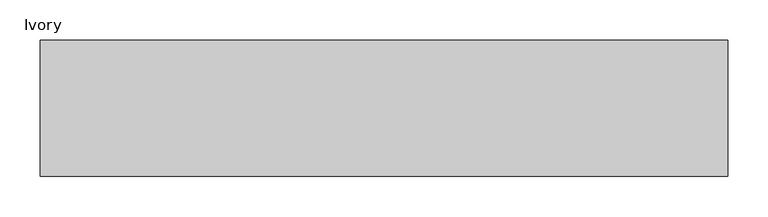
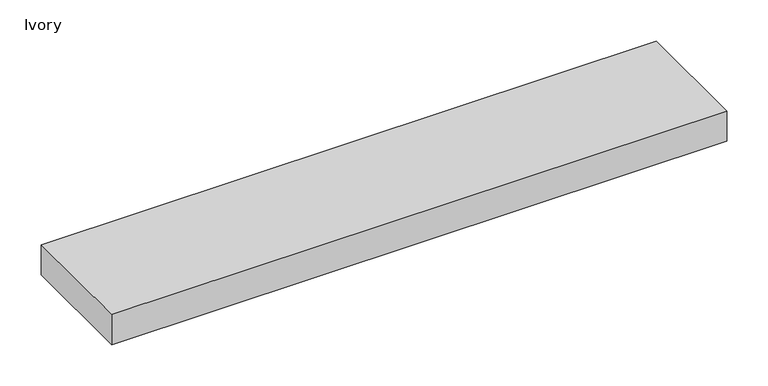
"""IFC4 building model written with IfcOpenShell, lengths in millimetres: proxy geometry, Raceway-5500_Series-Wiremold-Multi_Channel : Ivory."""

from ifc_helpers import new_model, si_unit, origin, origin_with_axes, place, context, project, spatial, polyline, outline, extrude, source, transform, mapped, element, save


def ivory_9e47778d(model_context):
    return source(origin(), model_context, "Body", "SweptSolid", [
        extrude(outline(polyline([(857.25, 84.9376), (857.25, -84.9376), (0.0, -84.9376), (0.0, 84.9376), (857.25, 84.9376)])), origin_with_axes(), (0.0, 0.0, 1.0), 44.45),
    ])


if __name__ == "__main__":
    model = new_model("IFC4")
    model_context = context("Model", 3, world=origin())
    ifc_project = project(units=[si_unit("LENGTHUNIT", "METRE", prefix="MILLI")], contexts=[model_context])
    site = spatial("IfcSite", under=ifc_project)
    building = spatial("IfcBuilding", under=site)
    placement = place(None, origin())
    ivory_shape = ivory_9e47778d(model_context)
    element("IfcBuildingElementProxy", 1, Name="Raceway-5500_Series-Wiremold-Multi_Channel : Ivory", ObjectType="Raceway-5500_Series-Wiremold-Multi_Channel : Ivory", at=placement, inside=building, context=model_context, shape_type="MappedRepresentation", body=[
        mapped(ivory_shape, transform((0.0, 0.0, 0.0), x_axis=(1.0, 0.0, 0.0), y_axis=(0.0, 1.0, 0.0), z_axis=(0.0, 0.0, 1.0))),
    ])
    save(model, "model.ifc")
